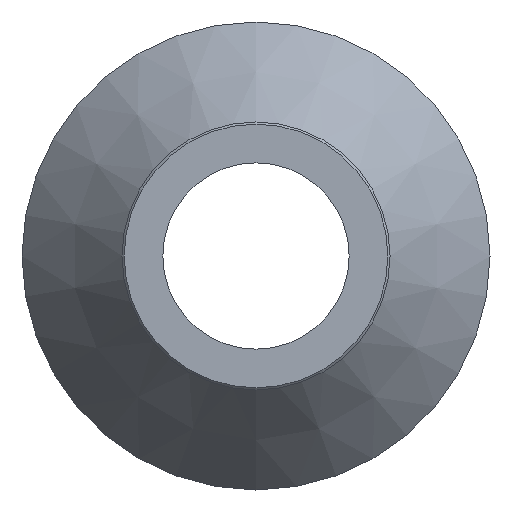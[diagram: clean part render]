
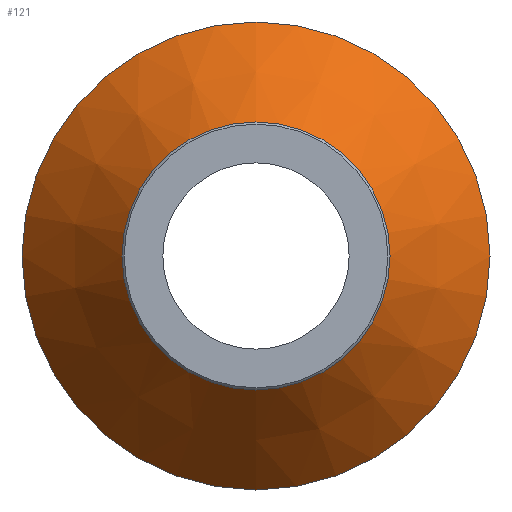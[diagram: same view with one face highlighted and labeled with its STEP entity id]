
A CAD part, left-side view. The second image highlights one B-rep face of the part: STEP entity #121.
In plain terms, the highlighted conical face has half-angle 38.073 degrees and reference radius 55 mm.
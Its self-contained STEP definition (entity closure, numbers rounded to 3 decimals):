
#22=CONICAL_SURFACE('',#146,55.,0.664);
#28=ORIENTED_EDGE('',*,*,#48,.F.);
#29=ORIENTED_EDGE('',*,*,#47,.T.);
#47=EDGE_CURVE('',#57,#57,#67,.T.);
#48=EDGE_CURVE('',#58,#58,#68,.T.);
#57=VERTEX_POINT('',#210);
#58=VERTEX_POINT('',#213);
#67=CIRCLE('',#145,55.);
#68=CIRCLE('',#147,31.5);
#78=EDGE_LOOP('',(#28));
#79=EDGE_LOOP('',(#29));
#98=FACE_BOUND('',#78,.T.);
#99=FACE_BOUND('',#79,.T.);
#121=ADVANCED_FACE('',(#98,#99),#22,.T.);
#145=AXIS2_PLACEMENT_3D('',#209,#169,#170);
#146=AXIS2_PLACEMENT_3D('',#211,#171,#172);
#147=AXIS2_PLACEMENT_3D('',#212,#173,#174);
#169=DIRECTION('',(-1.,0.,0.));
#170=DIRECTION('',(0.,0.,1.));
#171=DIRECTION('',(1.,0.,0.));
#172=DIRECTION('',(0.,0.,-1.));
#173=DIRECTION('',(-1.,0.,0.));
#174=DIRECTION('',(0.,0.,1.));
#209=CARTESIAN_POINT('',(15.,0.,0.));
#210=CARTESIAN_POINT('',(15.,0.,55.));
#211=CARTESIAN_POINT('',(15.,0.,0.));
#212=CARTESIAN_POINT('',(-15.,0.,0.));
#213=CARTESIAN_POINT('',(-15.,0.,31.5));
